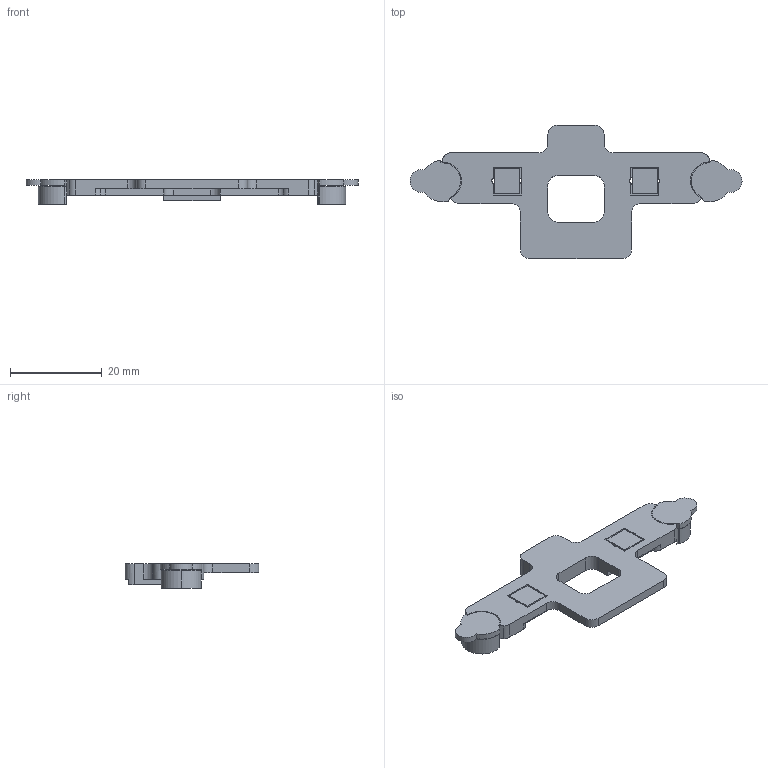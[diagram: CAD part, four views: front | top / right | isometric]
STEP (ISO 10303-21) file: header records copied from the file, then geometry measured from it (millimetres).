
FILE_DESCRIPTION (( 'STEP AP214' ), '1' );
FILE_NAME ('Button_table.STEP', '2025-02-14T20:43:01', ( '' ), ( '' ), 'SwSTEP 2.0', 'SolidWorks 2019', '' );
FILE_SCHEMA (( 'AUTOMOTIVE_DESIGN' ));
Length unit declared in the file: millimetre
Products named in the file (1): Button_table
Bounding box: 72.3 x 29.07 x 5.4 mm (x, y, z)
Volume: 2882.6 mm3; surface area: 3404.5 mm2
Topology: 5 solids, 5 shells, 129 faces, 362 edges, 240 vertices
Faces by surface type: plane 76, cylinder 53
Entity records: 4280 total; most frequent: DIRECTION 740, CARTESIAN_POINT 732, ORIENTED_EDGE 724, EDGE_CURVE 362, AXIS2_PLACEMENT_3D 248, VECTOR 244, LINE 244, VERTEX_POINT 240
